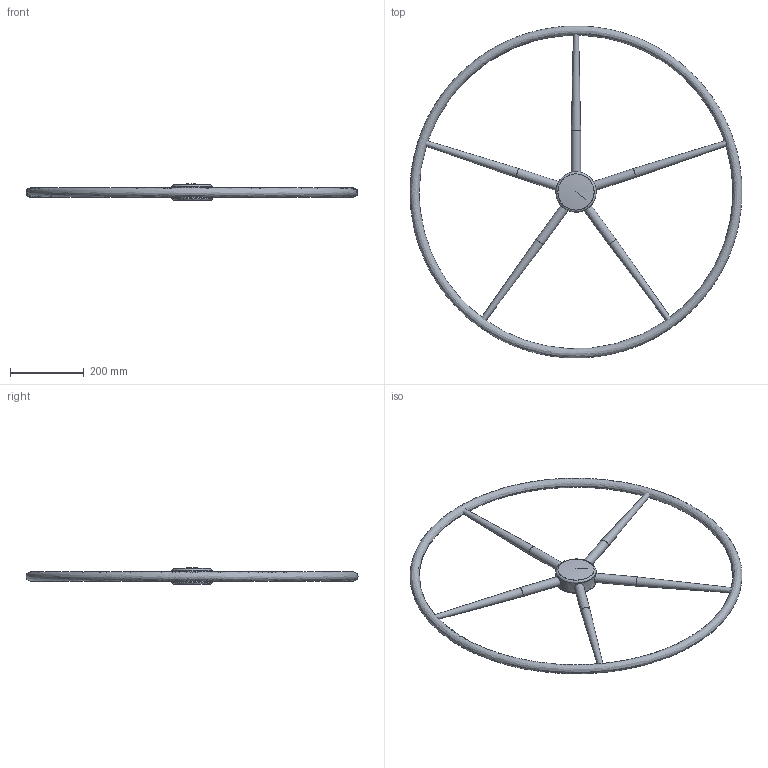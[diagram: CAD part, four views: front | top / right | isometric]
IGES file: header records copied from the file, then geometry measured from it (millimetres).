
Start section: Missler Software 3 rue Hermes, EUROPARC, 31520 Ramonville-Saint-Agne, France Tel   : +33 (0)5 61 00 03 00 Fax   : +33 (0)5 61 00 03 03 Email : sup.solid@topsolid.com
Global section: file name: Z:\J\Jp3\Barre à roue\roue 5 simple rayons\roue alu 5 simple rayons 2011\barre à roue 900.igs; native system: TopSolid v611200 Missler Software; preprocessor: IGES preprocessor v100000; author: Alex Rogeon; date: 111207.085709; units: millimetre
Bounding box: 900 x 900 x 43.85 mm (x, y, z)
Surface area: 586396.7 mm2 (no closed solid volume)
Topology: 0 solids, 0 shells, 55 faces, 867 edges, 827 vertices
Faces by surface type: bspline 55
